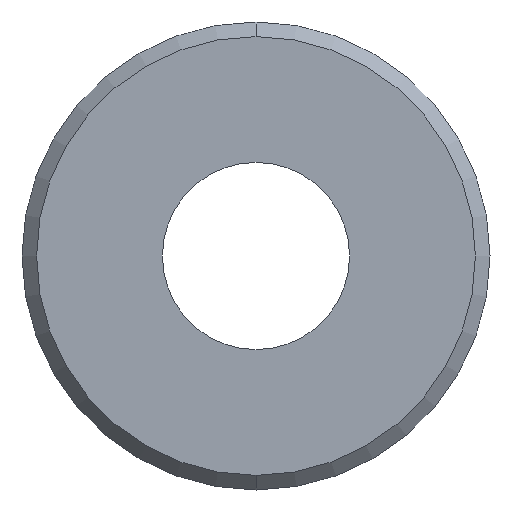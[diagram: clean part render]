
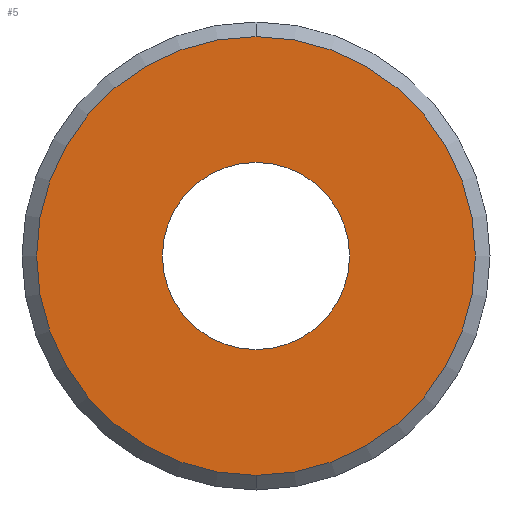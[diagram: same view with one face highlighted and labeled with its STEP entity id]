
A CAD part, front view. The second image highlights one B-rep face of the part: STEP entity #5.
In plain terms, the highlighted planar face has unit normal (0, -1, 0).
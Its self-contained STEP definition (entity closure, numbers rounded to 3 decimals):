
#3 = DIRECTION ( 'NONE',  ( 0., 0., 1. ) ) ;
#5 = ADVANCED_FACE ( 'NONE', ( #62, #393 ), #119, .F. ) ;
#14 = DIRECTION ( 'NONE',  ( 0., 1., 0. ) ) ;
#22 = DIRECTION ( 'NONE',  ( 0., 1., 0. ) ) ;
#29 = ORIENTED_EDGE ( 'NONE', *, *, #92, .T. ) ;
#38 = ORIENTED_EDGE ( 'NONE', *, *, #346, .T. ) ;
#43 = AXIS2_PLACEMENT_3D ( 'NONE', #171, #339, #3 ) ;
#44 = CIRCLE ( 'NONE', #382, 7.5 ) ;
#46 = CARTESIAN_POINT ( 'NONE',  ( 0., 0., 7.5 ) ) ;
#52 = CARTESIAN_POINT ( 'NONE',  ( 0., 0., 0. ) ) ;
#62 = FACE_OUTER_BOUND ( 'NONE', #122, .T. ) ;
#65 = CARTESIAN_POINT ( 'NONE',  ( 0., 0., -7.5 ) ) ;
#92 = EDGE_CURVE ( 'NONE', #322, #336, #133, .T. ) ;
#119 = PLANE ( 'NONE',  #43 ) ;
#120 = CARTESIAN_POINT ( 'NONE',  ( 0., 0., 0. ) ) ;
#122 = EDGE_LOOP ( 'NONE', ( #150, #379 ) ) ;
#132 = CIRCLE ( 'NONE', #162, 3.2 ) ;
#133 = CIRCLE ( 'NONE', #155, 3.2 ) ;
#150 = ORIENTED_EDGE ( 'NONE', *, *, #370, .F. ) ;
#154 = CARTESIAN_POINT ( 'NONE',  ( 0., 0., 0. ) ) ;
#155 = AXIS2_PLACEMENT_3D ( 'NONE', #120, #250, #282 ) ;
#162 = AXIS2_PLACEMENT_3D ( 'NONE', #52, #189, #183 ) ;
#164 = CARTESIAN_POINT ( 'NONE',  ( 0., 0., -3.2 ) ) ;
#171 = CARTESIAN_POINT ( 'NONE',  ( 3.2, 0., 0. ) ) ;
#183 = DIRECTION ( 'NONE',  ( 0., 0., 1. ) ) ;
#189 = DIRECTION ( 'NONE',  ( 0., 1., 0. ) ) ;
#190 = EDGE_CURVE ( 'NONE', #225, #281, #44, .T. ) ;
#198 = AXIS2_PLACEMENT_3D ( 'NONE', #261, #22, #326 ) ;
#225 = VERTEX_POINT ( 'NONE', #65 ) ;
#250 = DIRECTION ( 'NONE',  ( 0., 1., 0. ) ) ;
#260 = CARTESIAN_POINT ( 'NONE',  ( 0., 0., 3.2 ) ) ;
#261 = CARTESIAN_POINT ( 'NONE',  ( 0., 0., 0. ) ) ;
#276 = CIRCLE ( 'NONE', #198, 7.5 ) ;
#281 = VERTEX_POINT ( 'NONE', #46 ) ;
#282 = DIRECTION ( 'NONE',  ( 0., 0., 1. ) ) ;
#292 = EDGE_LOOP ( 'NONE', ( #38, #29 ) ) ;
#322 = VERTEX_POINT ( 'NONE', #164 ) ;
#326 = DIRECTION ( 'NONE',  ( 0., 0., 1. ) ) ;
#336 = VERTEX_POINT ( 'NONE', #260 ) ;
#339 = DIRECTION ( 'NONE',  ( 0., 1., 0. ) ) ;
#346 = EDGE_CURVE ( 'NONE', #336, #322, #132, .T. ) ;
#370 = EDGE_CURVE ( 'NONE', #281, #225, #276, .T. ) ;
#379 = ORIENTED_EDGE ( 'NONE', *, *, #190, .F. ) ;
#382 = AXIS2_PLACEMENT_3D ( 'NONE', #154, #14, #386 ) ;
#386 = DIRECTION ( 'NONE',  ( 0., 0., 1. ) ) ;
#393 = FACE_BOUND ( 'NONE', #292, .T. ) ;
